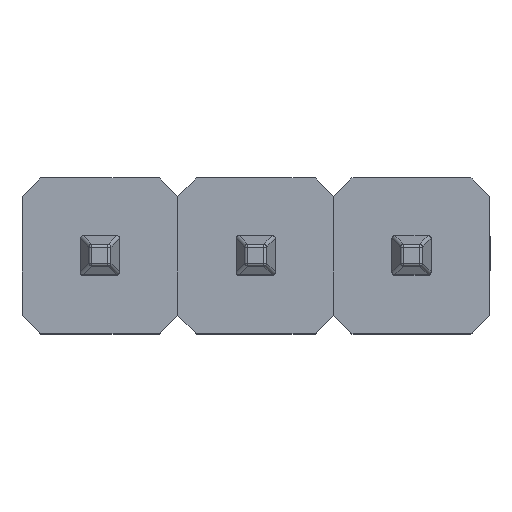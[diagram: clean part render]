
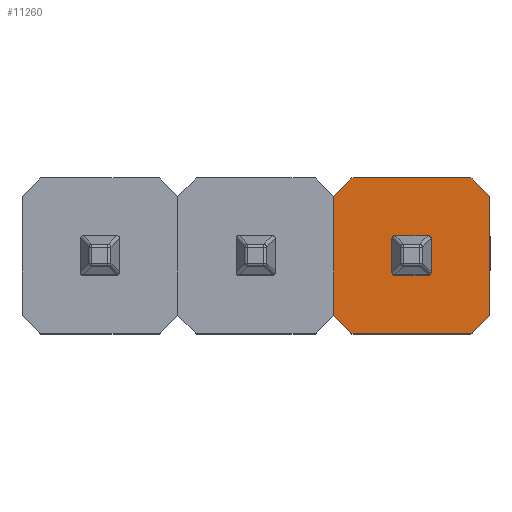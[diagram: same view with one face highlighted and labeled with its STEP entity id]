
A CAD part, top view. The second image highlights one B-rep face of the part: STEP entity #11260.
In plain terms, the highlighted planar face has unit normal (0, 0, 1).
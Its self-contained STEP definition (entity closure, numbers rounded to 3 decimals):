
#204 = DIRECTION ( 'NONE',  ( 0., 1., 0. ) ) ;
#432 = VERTEX_POINT ( 'NONE', #18332 ) ;
#572 = DIRECTION ( 'NONE',  ( -0.707, 0.707, 0. ) ) ;
#623 = EDGE_CURVE ( 'NONE', #22314, #19716, #14859, .T. ) ;
#655 = EDGE_CURVE ( 'NONE', #14608, #432, #6873, .T. ) ;
#783 = ORIENTED_EDGE ( 'NONE', *, *, #6753, .T. ) ;
#856 = DIRECTION ( 'NONE',  ( 1., 0., 0. ) ) ;
#886 = CARTESIAN_POINT ( 'NONE',  ( 0., 0., 2. ) ) ;
#1396 = EDGE_CURVE ( 'NONE', #11178, #17984, #3168, .T. ) ;
#1408 = CARTESIAN_POINT ( 'NONE',  ( 0., 0.32, 2. ) ) ;
#1605 = ORIENTED_EDGE ( 'NONE', *, *, #2779, .T. ) ;
#1904 = VECTOR ( 'NONE', #12585, 1000. ) ;
#1915 = VERTEX_POINT ( 'NONE', #8622 ) ;
#2677 = CIRCLE ( 'NONE', #10409, 0.05 ) ;
#2779 = EDGE_CURVE ( 'NONE', #3670, #14608, #12339, .T. ) ;
#3029 = VECTOR ( 'NONE', #13095, 1000. ) ;
#3168 = LINE ( 'NONE', #1408, #9766 ) ;
#3286 = ORIENTED_EDGE ( 'NONE', *, *, #623, .T. ) ;
#3415 = VERTEX_POINT ( 'NONE', #7649 ) ;
#3433 = CARTESIAN_POINT ( 'NONE',  ( 1.57, 1.27, 2. ) ) ;
#3670 = VERTEX_POINT ( 'NONE', #14548 ) ;
#3679 = VERTEX_POINT ( 'NONE', #8277 ) ;
#3776 = EDGE_CURVE ( 'NONE', #6681, #5190, #11395, .T. ) ;
#4473 = FACE_BOUND ( 'NONE', #15709, .T. ) ;
#4597 = ORIENTED_EDGE ( 'NONE', *, *, #655, .T. ) ;
#4890 = VECTOR ( 'NONE', #22513, 1000. ) ;
#5032 = DIRECTION ( 'NONE',  ( -1., 0., 0. ) ) ;
#5089 = CARTESIAN_POINT ( 'NONE',  ( 2.81, -0.32, 2. ) ) ;
#5190 = VERTEX_POINT ( 'NONE', #5089 ) ;
#5797 = LINE ( 'NONE', #12920, #1904 ) ;
#5858 = VERTEX_POINT ( 'NONE', #22131 ) ;
#5892 = DIRECTION ( 'NONE',  ( 0., -1., 0. ) ) ;
#5922 = VERTEX_POINT ( 'NONE', #7043 ) ;
#6012 = VECTOR ( 'NONE', #19044, 1000. ) ;
#6092 = EDGE_CURVE ( 'NONE', #10137, #16585, #9334, .T. ) ;
#6142 = ORIENTED_EDGE ( 'NONE', *, *, #13201, .T. ) ;
#6299 = CARTESIAN_POINT ( 'NONE',  ( 2.81, 0.27, 2. ) ) ;
#6681 = VERTEX_POINT ( 'NONE', #17471 ) ;
#6753 = EDGE_CURVE ( 'NONE', #3415, #17984, #7742, .T. ) ;
#6873 = LINE ( 'NONE', #8115, #4890 ) ;
#6930 = CARTESIAN_POINT ( 'NONE',  ( 1.27, -0.97, 2. ) ) ;
#6979 = AXIS2_PLACEMENT_3D ( 'NONE', #19377, #8811, #12506 ) ;
#7043 = CARTESIAN_POINT ( 'NONE',  ( 2.22, -0.27, 2. ) ) ;
#7394 = ORIENTED_EDGE ( 'NONE', *, *, #3776, .F. ) ;
#7649 = CARTESIAN_POINT ( 'NONE',  ( 2.22, 0.27, 2. ) ) ;
#7732 = CARTESIAN_POINT ( 'NONE',  ( 2.27, 0.27, 2. ) ) ;
#7742 = CIRCLE ( 'NONE', #14027, 0.05 ) ;
#7831 = VECTOR ( 'NONE', #5892, 1000. ) ;
#8021 = EDGE_CURVE ( 'NONE', #3679, #5190, #2677, .T. ) ;
#8115 = CARTESIAN_POINT ( 'NONE',  ( 1.57, -1.27, 2. ) ) ;
#8151 = PLANE ( 'NONE',  #16707 ) ;
#8277 = CARTESIAN_POINT ( 'NONE',  ( 2.86, -0.27, 2. ) ) ;
#8371 = CARTESIAN_POINT ( 'NONE',  ( 3.81, 0.97, 2. ) ) ;
#8470 = ORIENTED_EDGE ( 'NONE', *, *, #10952, .T. ) ;
#8544 = VECTOR ( 'NONE', #13686, 1000. ) ;
#8622 = CARTESIAN_POINT ( 'NONE',  ( 3.81, -0.97, 2. ) ) ;
#8623 = VECTOR ( 'NONE', #14904, 1000. ) ;
#8695 = CARTESIAN_POINT ( 'NONE',  ( 2.86, 0., 2. ) ) ;
#8811 = DIRECTION ( 'NONE',  ( 0., 0., -1. ) ) ;
#8827 = LINE ( 'NONE', #22776, #20040 ) ;
#8833 = EDGE_CURVE ( 'NONE', #3679, #5858, #17595, .T. ) ;
#9334 = LINE ( 'NONE', #16394, #21373 ) ;
#9341 = DIRECTION ( 'NONE',  ( 1., 0., 0. ) ) ;
#9561 = CIRCLE ( 'NONE', #6979, 0.05 ) ;
#9761 = DIRECTION ( 'NONE',  ( 0., 0., -1. ) ) ;
#9766 = VECTOR ( 'NONE', #5032, 1000. ) ;
#9854 = ORIENTED_EDGE ( 'NONE', *, *, #12065, .T. ) ;
#9873 = ORIENTED_EDGE ( 'NONE', *, *, #12033, .F. ) ;
#10137 = VERTEX_POINT ( 'NONE', #8371 ) ;
#10409 = AXIS2_PLACEMENT_3D ( 'NONE', #15284, #18983, #22269 ) ;
#10856 = ORIENTED_EDGE ( 'NONE', *, *, #6092, .T. ) ;
#10952 = EDGE_CURVE ( 'NONE', #432, #1915, #5797, .T. ) ;
#11178 = VERTEX_POINT ( 'NONE', #13218 ) ;
#11260 = ADVANCED_FACE ( 'NONE', ( #4473, #16827 ), #8151, .T. ) ;
#11395 = LINE ( 'NONE', #20434, #8623 ) ;
#11628 = CARTESIAN_POINT ( 'NONE',  ( 2.27, 0.32, 2. ) ) ;
#12033 = EDGE_CURVE ( 'NONE', #3415, #5922, #22786, .T. ) ;
#12065 = EDGE_CURVE ( 'NONE', #16585, #22314, #12076, .T. ) ;
#12076 = LINE ( 'NONE', #3433, #8544 ) ;
#12339 = LINE ( 'NONE', #6930, #16762 ) ;
#12432 = ORIENTED_EDGE ( 'NONE', *, *, #15806, .T. ) ;
#12506 = DIRECTION ( 'NONE',  ( 1., 0., 0. ) ) ;
#12585 = DIRECTION ( 'NONE',  ( 0.707, 0.707, 0. ) ) ;
#12920 = CARTESIAN_POINT ( 'NONE',  ( 3.51, -1.27, 2. ) ) ;
#13095 = DIRECTION ( 'NONE',  ( -0.707, -0.707, 0. ) ) ;
#13201 = EDGE_CURVE ( 'NONE', #1915, #10137, #8827, .T. ) ;
#13218 = CARTESIAN_POINT ( 'NONE',  ( 2.81, 0.32, 2. ) ) ;
#13412 = CARTESIAN_POINT ( 'NONE',  ( 1.57, -1.27, 2. ) ) ;
#13686 = DIRECTION ( 'NONE',  ( -1., 0., 0. ) ) ;
#13725 = ORIENTED_EDGE ( 'NONE', *, *, #1396, .F. ) ;
#13813 = CARTESIAN_POINT ( 'NONE',  ( 2.22, 0., 2. ) ) ;
#14027 = AXIS2_PLACEMENT_3D ( 'NONE', #7732, #18123, #9341 ) ;
#14356 = DIRECTION ( 'NONE',  ( 0., 1., 0. ) ) ;
#14548 = CARTESIAN_POINT ( 'NONE',  ( 1.27, -0.97, 2. ) ) ;
#14608 = VERTEX_POINT ( 'NONE', #13412 ) ;
#14644 = EDGE_LOOP ( 'NONE', ( #1605, #4597, #8470, #6142, #10856, #9854, #3286, #16403 ) ) ;
#14783 = CARTESIAN_POINT ( 'NONE',  ( 1.27, 0.97, 2. ) ) ;
#14859 = LINE ( 'NONE', #21863, #3029 ) ;
#14904 = DIRECTION ( 'NONE',  ( 1., 0., 0. ) ) ;
#15284 = CARTESIAN_POINT ( 'NONE',  ( 2.81, -0.27, 2. ) ) ;
#15536 = EDGE_CURVE ( 'NONE', #19716, #3670, #18385, .T. ) ;
#15709 = EDGE_LOOP ( 'NONE', ( #18976, #15779, #7394, #20109, #9873, #783, #13725, #12432 ) ) ;
#15779 = ORIENTED_EDGE ( 'NONE', *, *, #8021, .T. ) ;
#15806 = EDGE_CURVE ( 'NONE', #11178, #5858, #21821, .T. ) ;
#16394 = CARTESIAN_POINT ( 'NONE',  ( 3.51, 1.27, 2. ) ) ;
#16403 = ORIENTED_EDGE ( 'NONE', *, *, #15536, .T. ) ;
#16585 = VERTEX_POINT ( 'NONE', #22320 ) ;
#16707 = AXIS2_PLACEMENT_3D ( 'NONE', #886, #21891, #20125 ) ;
#16762 = VECTOR ( 'NONE', #20993, 1000. ) ;
#16827 = FACE_OUTER_BOUND ( 'NONE', #14644, .T. ) ;
#17471 = CARTESIAN_POINT ( 'NONE',  ( 2.27, -0.32, 2. ) ) ;
#17595 = LINE ( 'NONE', #8695, #18713 ) ;
#17813 = CARTESIAN_POINT ( 'NONE',  ( 1.27, 0.97, 2. ) ) ;
#17984 = VERTEX_POINT ( 'NONE', #11628 ) ;
#18123 = DIRECTION ( 'NONE',  ( 0., 0., -1. ) ) ;
#18332 = CARTESIAN_POINT ( 'NONE',  ( 3.51, -1.27, 2. ) ) ;
#18385 = LINE ( 'NONE', #14783, #7831 ) ;
#18713 = VECTOR ( 'NONE', #14356, 1000. ) ;
#18976 = ORIENTED_EDGE ( 'NONE', *, *, #8833, .F. ) ;
#18983 = DIRECTION ( 'NONE',  ( 0., 0., -1. ) ) ;
#19044 = DIRECTION ( 'NONE',  ( 0., -1., 0. ) ) ;
#19377 = CARTESIAN_POINT ( 'NONE',  ( 2.27, -0.27, 2. ) ) ;
#19457 = EDGE_CURVE ( 'NONE', #6681, #5922, #9561, .T. ) ;
#19716 = VERTEX_POINT ( 'NONE', #17813 ) ;
#20040 = VECTOR ( 'NONE', #204, 1000. ) ;
#20109 = ORIENTED_EDGE ( 'NONE', *, *, #19457, .T. ) ;
#20125 = DIRECTION ( 'NONE',  ( 1., 0., 0. ) ) ;
#20434 = CARTESIAN_POINT ( 'NONE',  ( 0., -0.32, 2. ) ) ;
#20742 = AXIS2_PLACEMENT_3D ( 'NONE', #6299, #9761, #856 ) ;
#20993 = DIRECTION ( 'NONE',  ( 0.707, -0.707, 0. ) ) ;
#21373 = VECTOR ( 'NONE', #572, 1000. ) ;
#21821 = CIRCLE ( 'NONE', #20742, 0.05 ) ;
#21863 = CARTESIAN_POINT ( 'NONE',  ( 1.27, 0.97, 2. ) ) ;
#21891 = DIRECTION ( 'NONE',  ( 0., 0., 1. ) ) ;
#22131 = CARTESIAN_POINT ( 'NONE',  ( 2.86, 0.27, 2. ) ) ;
#22269 = DIRECTION ( 'NONE',  ( 1., 0., 0. ) ) ;
#22314 = VERTEX_POINT ( 'NONE', #22434 ) ;
#22320 = CARTESIAN_POINT ( 'NONE',  ( 3.51, 1.27, 2. ) ) ;
#22434 = CARTESIAN_POINT ( 'NONE',  ( 1.57, 1.27, 2. ) ) ;
#22513 = DIRECTION ( 'NONE',  ( 1., 0., 0. ) ) ;
#22776 = CARTESIAN_POINT ( 'NONE',  ( 3.81, 0.97, 2. ) ) ;
#22786 = LINE ( 'NONE', #13813, #6012 ) ;
